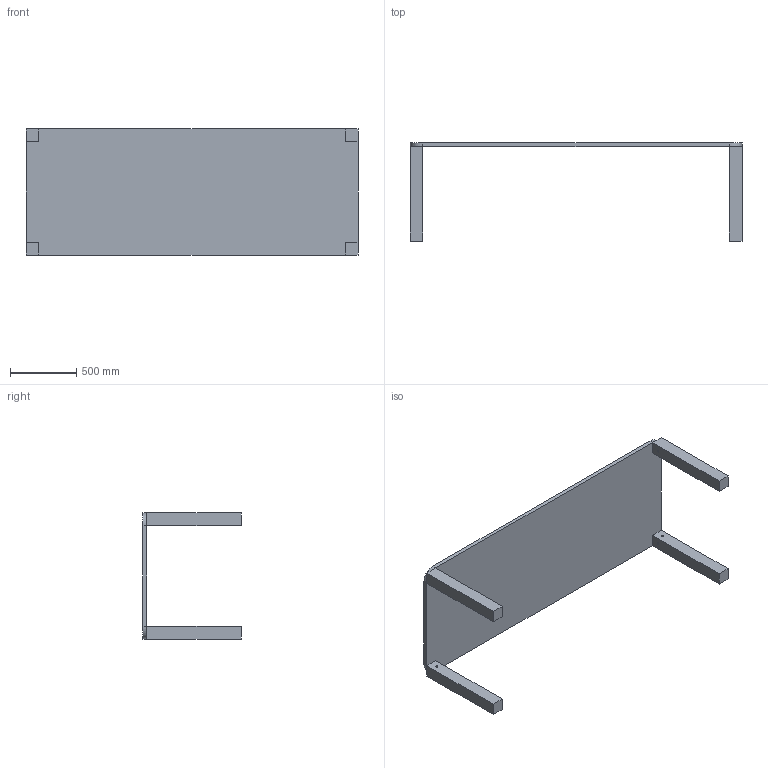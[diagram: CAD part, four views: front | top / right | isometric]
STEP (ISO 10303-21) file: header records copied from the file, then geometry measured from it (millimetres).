
FILE_DESCRIPTION (( 'STEP AP214' ), '1' );
FILE_NAME ('Atlas Dining Table 2500x950.STEP', '2023-05-17T09:25:40', ( '' ), ( '' ), 'SwSTEP 2.0', 'SolidWorks 2021', '' );
FILE_SCHEMA (( 'AUTOMOTIVE_DESIGN' ));
Length unit declared in the file: millimetre
Products named in the file (1): Atlas Dining Table 2500x950
Bounding box: 2500 x 740 x 950 mm (x, y, z)
Volume: 96578730.7 mm3; surface area: 6119122.7 mm2
Topology: 13 solids, 13 shells, 154 faces, 328 edges, 200 vertices
Faces by surface type: cylinder 68, plane 54, torus 32
Entity records: 4342 total; most frequent: CARTESIAN_POINT 779, DIRECTION 774, ORIENTED_EDGE 656, EDGE_CURVE 328, AXIS2_PLACEMENT_3D 323, VERTEX_POINT 200, EDGE_LOOP 178, CIRCLE 168
